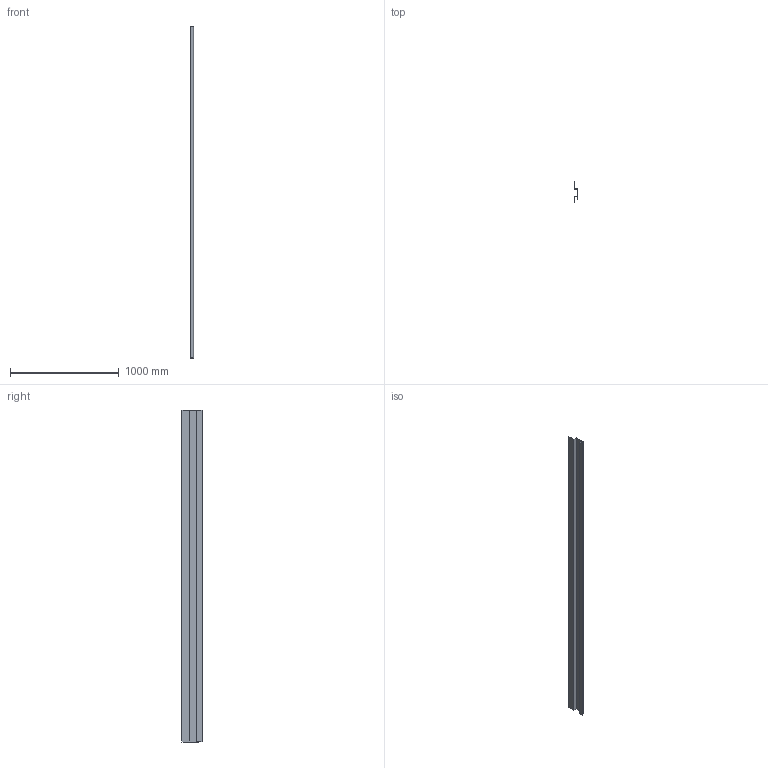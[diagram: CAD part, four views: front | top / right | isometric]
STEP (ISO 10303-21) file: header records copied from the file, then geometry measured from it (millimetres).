
FILE_DESCRIPTION(/* description */ (''),/* implementation_level */ '2;1');
FILE_NAME(/* name */ 'M13I.stp',/* time_stamp */ '2025-05-14T09:56:54-04:00',/* author */ ('gabrielle.gilbert'),/* organization */ (''),/* preprocessor_version */ 'ST-DEVELOPER v20',/* originating_system */ 'Autodesk Inventor 2025',/* authorisation */ '');
FILE_SCHEMA (('AUTOMOTIVE_DESIGN { 1 0 10303 214 3 1 1 }'));
Length unit declared in the file: inch
Products named in the file (3): M13I; M13I (1-2); M13I (2-2)
Assembly tree (2 placements, depth 2):
  M13I
    M13I (1-2)
    M13I (2-2)
Bounding box: 33.27 x 183.66 x 3048 mm (x, y, z)
Volume: 427294.4 mm3; surface area: 1885445.2 mm2
Topology: 2 solids, 2 shells, 32 faces, 84 edges, 56 vertices
Faces by surface type: plane 22, cylinder 10
Entity records: 1097 total; most frequent: DIRECTION 178, CARTESIAN_POINT 177, ORIENTED_EDGE 168, EDGE_CURVE 84, LINE 64, VECTOR 64, AXIS2_PLACEMENT_3D 57, VERTEX_POINT 56
